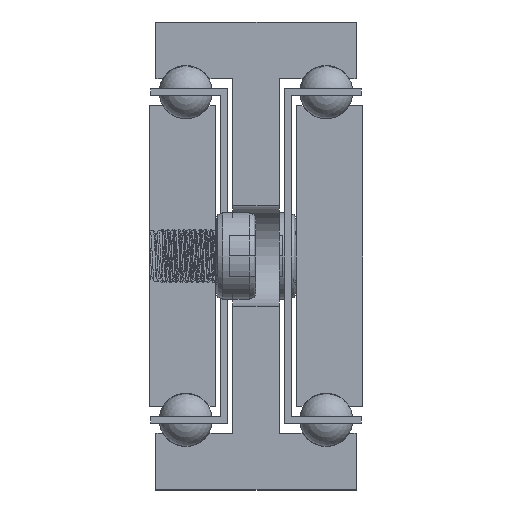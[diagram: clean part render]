
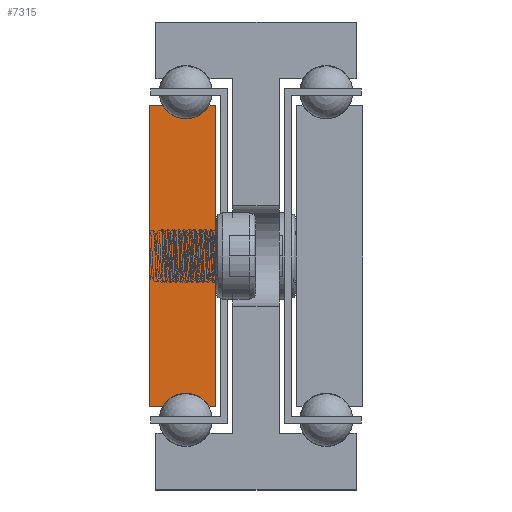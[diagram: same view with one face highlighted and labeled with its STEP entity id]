
A CAD part, front view. The second image highlights one B-rep face of the part: STEP entity #7315.
In plain terms, the highlighted planar face has unit normal (0, -1, 0).
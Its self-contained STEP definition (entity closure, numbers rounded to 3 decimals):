
#1205=CIRCLE('',#7883,4.);
#1207=CIRCLE('',#7889,4.);
#1849=FACE_OUTER_BOUND('',#2325,.T.);
#2325=EDGE_LOOP('',(#5798,#5799,#5800,#5801,#5802,#5803,#5804,#5805));
#3144=LINE('',#98103,#3356);
#3147=LINE('',#98109,#3359);
#3151=LINE('',#98121,#3363);
#3154=LINE('',#98127,#3366);
#3157=LINE('',#98133,#3369);
#3161=LINE('',#98143,#3373);
#3356=VECTOR('',#8842,1.);
#3359=VECTOR('',#8847,1.);
#3363=VECTOR('',#8859,1.);
#3366=VECTOR('',#8864,1.);
#3369=VECTOR('',#8869,1.);
#3373=VECTOR('',#8881,1.);
#3656=VERTEX_POINT('',#98100);
#3657=VERTEX_POINT('',#98102);
#3659=VERTEX_POINT('',#98108);
#3661=VERTEX_POINT('',#98114);
#3663=VERTEX_POINT('',#98120);
#3665=VERTEX_POINT('',#98126);
#3667=VERTEX_POINT('',#98132);
#3669=VERTEX_POINT('',#98138);
#4590=EDGE_CURVE('',#3657,#3656,#3144,.T.);
#4593=EDGE_CURVE('',#3659,#3657,#3147,.T.);
#4596=EDGE_CURVE('',#3661,#3659,#1205,.T.);
#4599=EDGE_CURVE('',#3663,#3661,#3151,.T.);
#4602=EDGE_CURVE('',#3665,#3663,#3154,.T.);
#4605=EDGE_CURVE('',#3667,#3665,#3157,.T.);
#4608=EDGE_CURVE('',#3669,#3667,#1207,.T.);
#4611=EDGE_CURVE('',#3656,#3669,#3161,.T.);
#5798=ORIENTED_EDGE('',*,*,#4611,.T.);
#5799=ORIENTED_EDGE('',*,*,#4608,.T.);
#5800=ORIENTED_EDGE('',*,*,#4605,.T.);
#5801=ORIENTED_EDGE('',*,*,#4602,.T.);
#5802=ORIENTED_EDGE('',*,*,#4599,.T.);
#5803=ORIENTED_EDGE('',*,*,#4596,.T.);
#5804=ORIENTED_EDGE('',*,*,#4593,.T.);
#5805=ORIENTED_EDGE('',*,*,#4590,.T.);
#7169=PLANE('',#7892);
#7315=ADVANCED_FACE('',(#1849),#7169,.T.);
#7883=AXIS2_PLACEMENT_3D('',#98115,#8853,#8854);
#7889=AXIS2_PLACEMENT_3D('',#98139,#8875,#8876);
#7892=AXIS2_PLACEMENT_3D('',#98145,#8884,#8885);
#8842=DIRECTION('',(0.,0.,-1.));
#8847=DIRECTION('',(-1.,0.,0.));
#8853=DIRECTION('center_axis',(0.,1.,0.));
#8854=DIRECTION('ref_axis',(-0.866,0.,-0.5));
#8859=DIRECTION('',(-1.,0.,0.));
#8864=DIRECTION('',(0.,0.,1.));
#8869=DIRECTION('',(1.,0.,0.));
#8875=DIRECTION('center_axis',(0.,1.,0.));
#8876=DIRECTION('ref_axis',(0.866,0.,0.5));
#8881=DIRECTION('',(1.,0.,0.));
#8884=DIRECTION('center_axis',(0.,-1.,0.));
#8885=DIRECTION('ref_axis',(1.,0.,0.));
#98100=CARTESIAN_POINT('',(-934.13,-1114.858,-57.5));
#98102=CARTESIAN_POINT('',(-934.13,-1114.858,-12.5));
#98103=CARTESIAN_POINT('',(-934.13,-1114.858,-57.5));
#98108=CARTESIAN_POINT('',(-932.094,-1114.858,-12.5));
#98109=CARTESIAN_POINT('',(-934.13,-1114.858,-12.5));
#98114=CARTESIAN_POINT('',(-925.166,-1114.858,-12.5));
#98115=CARTESIAN_POINT('Origin',(-928.63,-1114.858,-10.5));
#98120=CARTESIAN_POINT('',(-924.13,-1114.858,-12.5));
#98121=CARTESIAN_POINT('',(-925.166,-1114.858,-12.5));
#98126=CARTESIAN_POINT('',(-924.13,-1114.858,-57.5));
#98127=CARTESIAN_POINT('',(-924.13,-1114.858,-12.5));
#98132=CARTESIAN_POINT('',(-925.166,-1114.858,-57.5));
#98133=CARTESIAN_POINT('',(-924.13,-1114.858,-57.5));
#98138=CARTESIAN_POINT('',(-932.094,-1114.858,-57.5));
#98139=CARTESIAN_POINT('Origin',(-928.63,-1114.858,-59.5));
#98143=CARTESIAN_POINT('',(-932.094,-1114.858,-57.5));
#98145=CARTESIAN_POINT('Origin',(-929.136,-1114.858,-35.));
